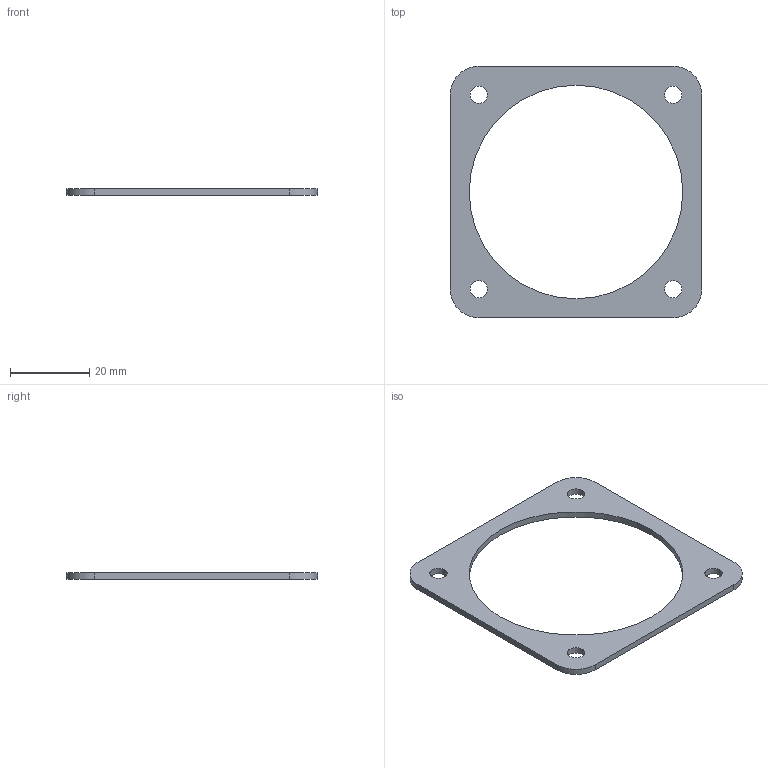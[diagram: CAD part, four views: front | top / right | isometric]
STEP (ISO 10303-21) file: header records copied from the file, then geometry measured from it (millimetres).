
FILE_DESCRIPTION (( 'STEP AP203' ), '1' );
FILE_NAME ('P-100842-36.STEP', '2018-09-13T00:25:29', ( '' ), ( '' ), 'SwSTEP 2.0', 'SolidWorks 2018', '' );
FILE_SCHEMA (( 'CONFIG_CONTROL_DESIGN' ));
Length unit declared in the file: millimetre
Products named in the file (1): P-100842-36
Bounding box: 63.5 x 63.5 x 1.6 mm (x, y, z)
Volume: 2622.6 mm3; surface area: 4025.4 mm2
Topology: 1 solids, 1 shells, 20 faces, 54 edges, 36 vertices
Faces by surface type: cylinder 14, plane 6
Entity records: 743 total; most frequent: DIRECTION 124, CARTESIAN_POINT 111, ORIENTED_EDGE 108, EDGE_CURVE 54, AXIS2_PLACEMENT_3D 49, VERTEX_POINT 36, EDGE_LOOP 30, CIRCLE 28
